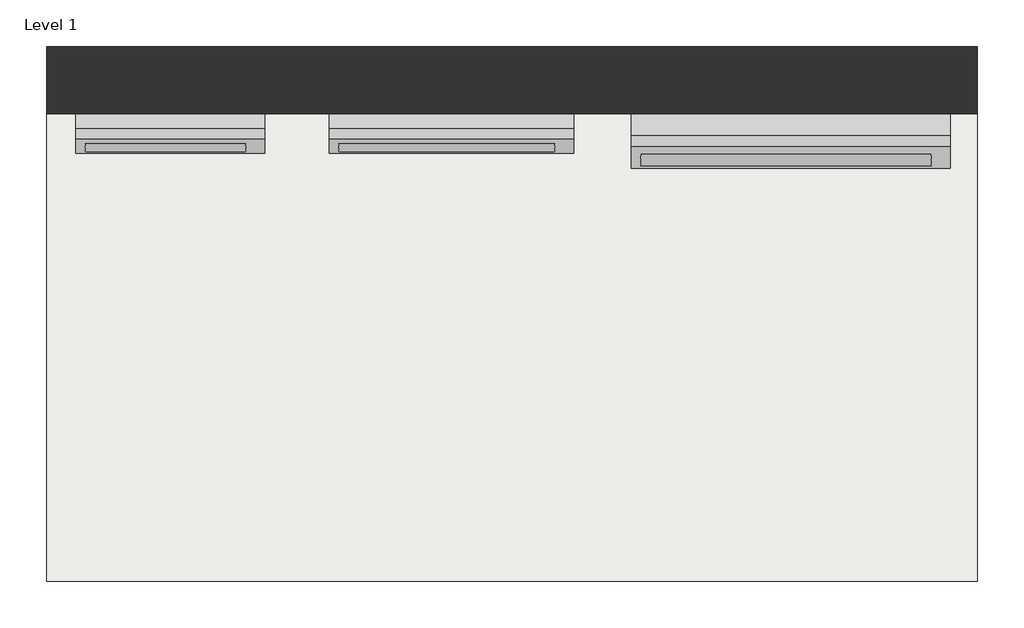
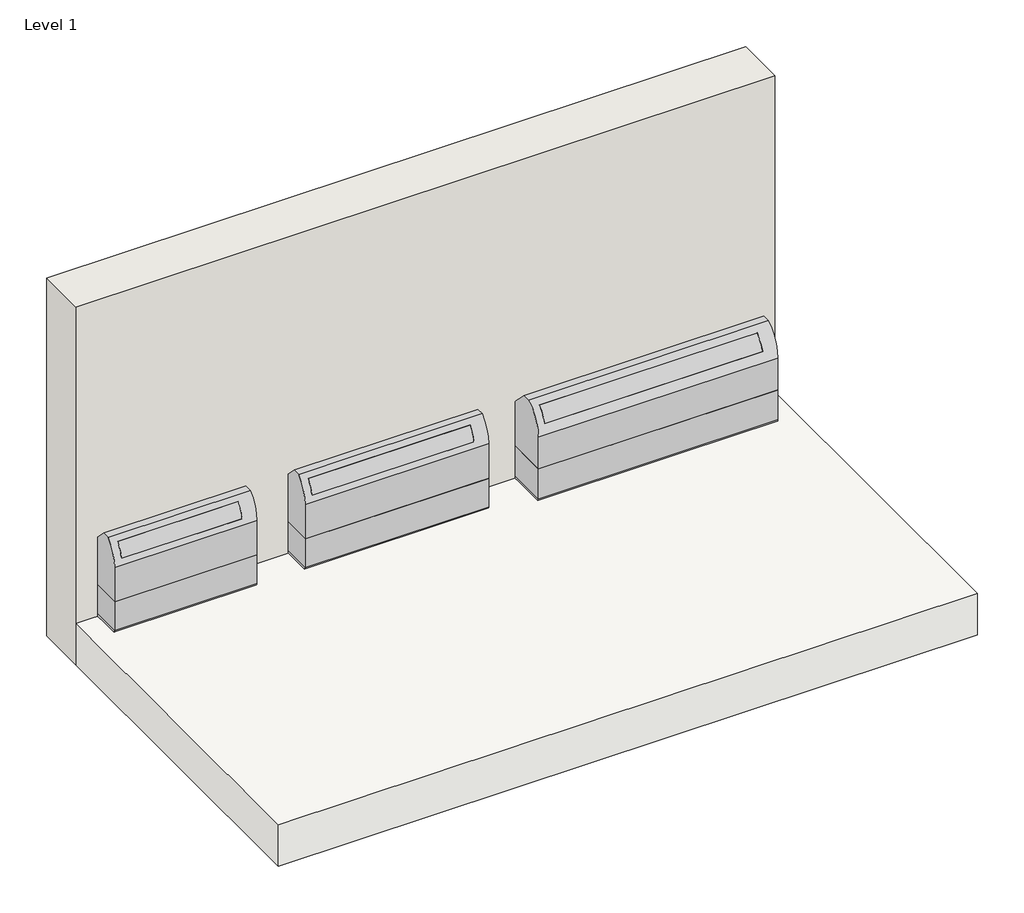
# One storey: 3 proxies, 1 slab, 1 wall.
"""IFC4 building model written with IfcOpenShell, lengths in millimetres."""

import ifcopenshell
import ifcopenshell.guid

model = None  # the IFC model being written
_history = None  # IfcOwnerHistory: only IFC2X3 demands one
_inside = {}  # id of a spatial element -> (the spatial element, [elements in it])
_under = {}  # id of a project, library or spatial element -> (it, [spatial elements below it])
_declared = {}  # id of a project -> (the project, [libraries it declares])
_typed = {}  # id of a type object -> (the type object, [elements of that type])
_made_of = {}  # id of a material, layer set ... -> (it, [elements and type objects made of it])


def new_model(schema):
    """Start an empty IFC model of exactly this schema.

    Asked for "IFC4X3", IfcOpenShell would pick the latest addendum, in which some entities
    have other attributes; the version numbers below select the first issue.
    IFC2X3 requires an IfcOwnerHistory on every rooted entity: one is made here for all.
    """
    global model, _history
    if schema == "IFC4X3":
        model = ifcopenshell.file(schema_version=(4, 3, 0, 0))
    else:
        model = ifcopenshell.file(schema=schema)
    _inside.clear()
    _under.clear()
    _declared.clear()
    _typed.clear()
    _made_of.clear()
    _history = None
    if model.schema == "IFC2X3":
        org = make("IfcOrganization", Name="unknown")
        user = make(
            "IfcPersonAndOrganization",
            ThePerson=make("IfcPerson", FamilyName="unknown"),
            TheOrganization=org,
        )
        app = make(
            "IfcApplication",
            ApplicationDeveloper=org,
            Version="unknown",
            ApplicationFullName="unknown",
            ApplicationIdentifier="unknown",
        )
        _history = make(
            "IfcOwnerHistory",
            OwningUser=user,
            OwningApplication=app,
            ChangeAction="ADDED",
            CreationDate=0,
        )
    return model


def make(cls, **values):
    """One entity of the class cls with the attributes given. An attribute that is None is left unset."""
    return model.create_entity(
        cls, **{name: value for name, value in values.items() if value is not None}
    )


def rooted(cls, **values):
    """An entity with a GlobalId (a new one), such as an element, a storey or a relation."""
    return make(cls, GlobalId=ifcopenshell.guid.new(), OwnerHistory=_history, **values)


def si_unit(unit_type, name, prefix=None):
    """IfcSIUnit, for example si_unit("LENGTHUNIT", "METRE", prefix="MILLI")."""
    return make("IfcSIUnit", UnitType=unit_type, Prefix=prefix, Name=name)


def assignment(units):
    """IfcUnitAssignment: the units of a project."""
    return None if units is None else make("IfcUnitAssignment", Units=units)


def point(xyz):
    """IfcCartesianPoint."""
    return None if xyz is None else make("IfcCartesianPoint", Coordinates=xyz)


def direction(xyz):
    """IfcDirection."""
    return None if xyz is None else make("IfcDirection", DirectionRatios=xyz)


def frame(location, z_axis=None, x_axis=None):
    """IfcAxis2Placement3D, a coordinate frame: its origin and axes. An axis left out is left unset."""
    return make(
        "IfcAxis2Placement3D",
        Location=point(location),
        Axis=direction(z_axis),
        RefDirection=direction(x_axis),
    )


def frame_2d(location, x_axis=None):
    """IfcAxis2Placement2D, a coordinate frame in the plane: its origin and x axis."""
    return make(
        "IfcAxis2Placement2D", Location=point(location), RefDirection=direction(x_axis)
    )


def origin():
    """The frame at (0, 0, 0) with its axes left unset."""
    return frame((0.0, 0.0, 0.0))


def place(relative_to, where):
    """IfcLocalPlacement: puts the frame where relative to a parent placement (None: the world)."""
    return make(
        "IfcLocalPlacement", PlacementRelTo=relative_to, RelativePlacement=where
    )


def context(
    kind, dimensions, precision=None, world=None, true_north=None, identifier=None
):
    """IfcGeometricRepresentationContext, for example the 3D "Model" context."""
    return make(
        "IfcGeometricRepresentationContext",
        ContextIdentifier=identifier,
        ContextType=kind,
        CoordinateSpaceDimension=dimensions,
        Precision=precision,
        WorldCoordinateSystem=world,
        TrueNorth=true_north,
    )


def project(units=None, contexts=None):
    """IfcProject with its units and contexts."""
    return rooted(
        "IfcProject",
        Name="project",
        RepresentationContexts=contexts,
        UnitsInContext=assignment(units),
    )


def spatial(cls, under=None, at=None, **own):
    """A site, building, storey or space (cls), placed at a placement, below another one or the project."""
    s = rooted(cls, ObjectPlacement=at, **own)
    if under is not None:
        _under.setdefault(under.id(), (under, []))[1].append(s)
    return s


def polyline(points):
    """IfcPolyline through the points."""
    return make("IfcPolyline", Points=[point(p) for p in points])


def circle_curve(where, radius):
    """IfcCircle in the frame where."""
    return make("IfcCircle", Position=where, Radius=radius)


def trimmed(basis, trim1, trim2, sense, master):
    """IfcTrimmedCurve: the piece of a basis curve between two trims."""
    return make(
        "IfcTrimmedCurve",
        BasisCurve=basis,
        Trim1=trim1,
        Trim2=trim2,
        SenseAgreement=sense,
        MasterRepresentation=master,
    )


def segment(curve, same_sense, transition):
    """IfcCompositeCurveSegment."""
    return make(
        "IfcCompositeCurveSegment",
        Transition=transition,
        SameSense=same_sense,
        ParentCurve=curve,
    )


def composite_curve(segments, self_intersect=None):
    """IfcCompositeCurve: segments joined end to end."""
    return make("IfcCompositeCurve", Segments=segments, SelfIntersect=self_intersect)


def outline(outer, holes=None, kind="AREA"):
    """IfcArbitraryClosedProfileDef: a profile drawn as a closed curve; with holes, ...WithVoids."""
    if holes is None:
        return make("IfcArbitraryClosedProfileDef", ProfileType=kind, OuterCurve=outer)
    return make(
        "IfcArbitraryProfileDefWithVoids",
        ProfileType=kind,
        OuterCurve=outer,
        InnerCurves=holes,
    )


def extrude(swept, where, along, depth):
    """IfcExtrudedAreaSolid: the profile swept, set in the frame where, extruded along a direction by depth."""
    return make(
        "IfcExtrudedAreaSolid",
        SweptArea=swept,
        Position=where,
        ExtrudedDirection=direction(along),
        Depth=depth,
    )


def faces_of(points, faces, orient=None, outer=None):
    """IfcFace entities. A face is a list of loops; a loop is a list of indices into points, from 0.

    orient and outer hold one flag for each loop. By default every Orientation is true, the
    first loop of a face is its IfcFaceOuterBound and the others are IfcFaceBound.
    """
    made = []
    for i, loops in enumerate(faces):
        bounds = []
        for j, loop in enumerate(loops):
            is_outer = j == 0 if outer is None else outer[i][j]
            bounds.append(
                make(
                    "IfcFaceOuterBound" if is_outer else "IfcFaceBound",
                    Bound=make("IfcPolyLoop", Polygon=[points[k] for k in loop]),
                    Orientation=True if orient is None else orient[i][j],
                )
            )
        made.append(make("IfcFace", Bounds=bounds))
    return made


def faceted_brep(points, faces, orient=None, outer=None, voids=None):
    """IfcFacetedBrep: a solid bounded by flat faces; with voids (closed shells), ...WithVoids."""
    shared = [point(p) for p in points]
    hull = make("IfcClosedShell", CfsFaces=faces_of(shared, faces, orient, outer))
    if voids is None:
        return make("IfcFacetedBrep", Outer=hull)
    return make(
        "IfcFacetedBrepWithVoids",
        Outer=hull,
        Voids=[
            make(cls, CfsFaces=faces_of(shared, fs, o, b)) for cls, fs, o, b in voids
        ],
    )


def shape(context_of_items, identifier, shape_type, items):
    """IfcShapeRepresentation: the items that make up one representation, for example the "Body"."""
    return make(
        "IfcShapeRepresentation",
        ContextOfItems=context_of_items,
        RepresentationIdentifier=identifier,
        RepresentationType=shape_type,
        Items=items,
    )


def source(mapping_origin, context_of_items, identifier, shape_type, items):
    """IfcRepresentationMap: a shape defined once, which mapped items show again and again."""
    return make(
        "IfcRepresentationMap",
        MappingOrigin=mapping_origin,
        MappedRepresentation=shape(context_of_items, identifier, shape_type, items),
    )


def transform(
    local_origin,
    x_axis=None,
    y_axis=None,
    z_axis=None,
    scale=None,
    scale2=None,
    scale3=None,
    uniform=True,
):
    """IfcCartesianTransformationOperator3D, or its non-uniform kind. x_axis, y_axis, z_axis: its Axis1, 2, 3."""
    if uniform:
        return make(
            "IfcCartesianTransformationOperator3D",
            Axis1=direction(x_axis),
            Axis2=direction(y_axis),
            LocalOrigin=point(local_origin),
            Scale=scale,
            Axis3=direction(z_axis),
        )
    return make(
        "IfcCartesianTransformationOperator3DnonUniform",
        Axis1=direction(x_axis),
        Axis2=direction(y_axis),
        LocalOrigin=point(local_origin),
        Scale=scale,
        Axis3=direction(z_axis),
        Scale2=scale2,
        Scale3=scale3,
    )


def mapped(mapping_source, mapping_target):
    """IfcMappedItem: shows the shape of a source again, moved by a transform."""
    return make(
        "IfcMappedItem", MappingSource=mapping_source, MappingTarget=mapping_target
    )


def made_of(thing, what):
    """Note that an element or type object is made of a material, layer set ...; save() writes the relation."""
    if what is not None:
        _made_of.setdefault(what.id(), (what, []))[1].append(thing)
    return thing


def element(
    cls,
    number,
    at=None,
    inside=None,
    cuts=None,
    type_object=None,
    material=None,
    context=None,
    identifier="Body",
    shape_type=None,
    held_by="IfcProductDefinitionShape",
    body=None,
    shapes=None,
    **own,
):
    """One element of the class cls, such as IfcWall. Its Tag is "e" and its number.

    at: its placement. inside: the storey or other place that contains it. cuts: it is an
    opening in that element (IfcRelVoidsElement). A single representation is given by context,
    identifier, shape_type and body (its items); several are given by shapes. held_by: the class
    of the entity that holds the representations. save() writes the other relations.
    """
    e = rooted(cls, Tag="e%d" % number, ObjectPlacement=at, **own)
    if body is not None:
        shapes = [shape(context, identifier, shape_type, body)]
    if shapes is not None:
        e.Representation = make(held_by, Representations=shapes)
    if inside is not None:
        _inside.setdefault(inside.id(), (inside, []))[1].append(e)
    if cuts is not None:
        rooted(
            "IfcRelVoidsElement", RelatingBuildingElement=cuts, RelatedOpeningElement=e
        )
    if type_object is not None:
        _typed.setdefault(type_object.id(), (type_object, []))[1].append(e)
    return made_of(e, material)


def aggregate(whole, parts):
    """IfcRelAggregates: a whole, such as a stair, and the parts it consists of."""
    return rooted("IfcRelAggregates", RelatingObject=whole, RelatedObjects=parts)


def save(model, path):
    """Write the relations noted so far, then the file.

    IfcRelAggregates (storeys below a building ...), IfcRelContainedInSpatialStructure (elements
    in a storey), IfcRelDefinesByType, IfcRelAssociatesMaterial and IfcRelDeclares: one each for
    every whole, place, type object, material and project.
    """
    for whole, parts in _under.values():
        aggregate(whole, parts)
    for where, things in _inside.values():
        rooted(
            "IfcRelContainedInSpatialStructure",
            RelatedElements=things,
            RelatingStructure=where,
        )
    for kind, things in _typed.values():
        rooted("IfcRelDefinesByType", RelatedObjects=things, RelatingType=kind)
    for what, things in _made_of.values():
        rooted("IfcRelAssociatesMaterial", RelatedObjects=things, RelatingMaterial=what)
    for by, libraries in _declared.values():
        rooted("IfcRelDeclares", RelatingContext=by, RelatedDefinitions=libraries)
    model.write(path)


def plane_surface(at):
    """IfcPlane: the flat surface through the origin of the frame at, square to its z axis."""
    return make("IfcPlane", Position=at)


def cylinder_surface(at, radius):
    """IfcCylindricalSurface: all points at the distance radius from the z axis of the frame at."""
    return make("IfcCylindricalSurface", Position=at, Radius=radius)


def advanced_brep(points, edges, surfaces, faces):
    """IfcAdvancedBrep: a solid bounded by faces that lie on surfaces and meet in shared edges.

    An edge is (start, end): straight between two places in points (the first is 0);
    or (start, end, curve); or (start, end, curve, False) where it runs against its curve.
    A face is (place in surfaces, loops), or (place, loops, False) where it looks against
    its surface's normal. A loop lists edges by number (the first is 1), with a minus sign
    where the edge is run from its end to its start. The first loop is the outer one.
    """
    corners = [point(p) for p in points]
    vertices = [make("IfcVertexPoint", VertexGeometry=c) for c in corners]
    made = []
    for start, end, *more in edges:
        made.append(
            make(
                "IfcEdgeCurve",
                EdgeStart=vertices[start],
                EdgeEnd=vertices[end],
                EdgeGeometry=more[0] if more else make("IfcPolyline", Points=[corners[start], corners[end]]),
                SameSense=more[1] if len(more) > 1 else True,
            )
        )
    hull = []
    for where, loops, *sense in faces:
        bounds = []
        for j, loop in enumerate(loops):
            ring = [make("IfcOrientedEdge", EdgeElement=made[abs(k) - 1], Orientation=k > 0) for k in loop]
            bounds.append(
                make(
                    "IfcFaceOuterBound" if j == 0 else "IfcFaceBound",
                    Bound=make("IfcEdgeLoop", EdgeList=ring),
                    Orientation=True,
                )
            )
        hull.append(make("IfcAdvancedFace", Bounds=bounds, FaceSurface=surfaces[where], SameSense=sense[0] if sense else True))
    return make("IfcAdvancedBrep", Outer=make("IfcClosedShell", CfsFaces=hull))


def proxy_15000_btu_h_a17ee8bb(model_context):
    return source(origin(), model_context, "Body", "SolidModel", [
        faceted_brep([(495.5, 230.0, 206.0), (495.5, 20.0, 206.0), (495.5, 20.0, 0.0), (495.5, 230.0, 0.0), (-495.5, 230.0, 206.0), (-495.5, 230.0, 0.0), (-495.5, 20.0, 0.0), (-495.5, 20.0, 206.0), (355.5, 20.0, 0.0), (355.5, 20.0, 125.0), (455.5, 20.0, 125.0), (455.5, 20.0, 0.0), (455.5, 110.0, 0.0), (355.5, 110.0, 0.0), (355.5, 184.8703415, 125.0), (455.5, 184.8703415, 125.0), (455.5, 110.0, 25.0), (355.5, 110.0, 25.0), (355.5, 184.8703415, 25.0), (455.5, 184.8703415, 25.0)], [[[0, 1, 2, 3]], [[4, 5, 6, 7]], [[1, 0, 4, 7]], [[2, 1, 7, 6, 8, 9, 10, 11]], [[3, 2, 11, 12, 13, 8, 6, 5]], [[0, 3, 5, 4]], [[10, 9, 14, 15]], [[13, 12, 16, 17]], [[14, 9, 8, 13, 17, 18]], [[10, 15, 19, 16, 12, 11]], [[15, 14, 18, 19]], [[19, 18, 17, 16]]]),
        extrude(outline(composite_curve([segment(trimmed(circle_curve(frame_2d((97.0, 440.5)), 6.35), [point((97.0, 434.15))], [point((97.0, 446.85))], False, "CARTESIAN"), True, "CONTINUOUS"), segment(trimmed(circle_curve(frame_2d((97.0, 440.5)), 6.35), [point((97.0, 446.85))], [point((97.0, 434.15))], False, "CARTESIAN"), True, "CONTINUOUS")], self_intersect=False)), frame((0.0, 134.0, 0.0), z_axis=(0.0, 1.0, 0.0), x_axis=(0.0, 0.0, 1.0)), (0.0, 0.0, 1.0), 90.0),
        extrude(outline(composite_curve([segment(trimmed(circle_curve(frame_2d((64.0, 434.5)), 3.175), [point((64.0, 437.675))], [point((64.0, 431.325))], False, "CARTESIAN"), True, "CONTINUOUS"), segment(trimmed(circle_curve(frame_2d((64.0, 434.5)), 3.175), [point((64.0, 431.325))], [point((64.0, 437.675))], False, "CARTESIAN"), True, "CONTINUOUS")], self_intersect=False)), frame((0.0, 98.0, 0.0), z_axis=(0.0, 1.0, 0.0), x_axis=(0.0, 0.0, 1.0)), (0.0, 0.0, 1.0), 125.0),
        advanced_brep(
        [(495.5, 0.0, 186.0), (495.5, 0.0, 0.0), (495.5, 585.0, 0.0), (495.5, 660.0, 76.0), (495.5, 660.0, 130.0), (495.5, 484.7744311, 206.0), (495.5, 20.0, 206.0), (-495.5, 0.0, 186.0), (-495.5, 20.0, 206.0), (-495.5, 484.7744311, 206.0), (-495.5, 660.0, 130.0), (-495.5, 660.0, 76.0), (-495.5, 585.0, 0.0), (-495.5, 0.0, 0.0), (355.5, 0.0, 125.0), (455.5, 0.0, 125.0), (455.5, 0.0, 25.0), (355.5, 0.0, 25.0), (455.5, 110.0, 0.0), (355.5, 110.0, 0.0), (355.5, 10.0, 0.0), (455.5, 10.0, 0.0), (-445.5, 630.0, 157.0746821), (395.5, 630.0, 157.0746821), (395.5, 530.0, 201.700335), (-445.5, 530.0, 201.700335), (395.5, 630.0, 103.0), (-445.5, 630.0, 103.0), (-445.5, 530.0, 103.0), (395.5, 530.0, 103.0), (455.5, 184.8703415, 125.0), (355.5, 184.8703415, 125.0), (355.5, 184.8703415, 25.0), (455.5, 184.8703415, 25.0), (355.5, 10.0, 25.0), (355.5, 110.0, 25.0), (455.5, 10.0, 25.0), (455.5, 110.0, 25.0)],
        [
            (0, 1),
            (1, 2),
            (2, 3),
            (3, 4),
            (4, 5, circle_curve(frame((495.5, 484.7744311, -34.0), z_axis=(1.0, 0.0, 0.0), x_axis=(0.0, 1.0, 0.0)), 240.0)),
            (5, 6),
            (6, 0, circle_curve(frame((495.5, 20.0, 186.0), z_axis=(1.0, 0.0, 0.0), x_axis=(0.0, 1.0, 0.0)), 20.0)),
            (7, 8, circle_curve(frame((-495.5, 20.0, 186.0), z_axis=(-1.0, 0.0, 0.0), x_axis=(0.0, 1.0, 0.0)), 20.0)),
            (8, 9),
            (9, 10, circle_curve(frame((-495.5, 484.7744311, -34.0), z_axis=(-1.0, 0.0, 0.0), x_axis=(0.0, 1.0, 0.0)), 240.0)),
            (10, 11),
            (11, 12),
            (12, 13),
            (13, 7),
            (0, 7),
            (13, 1),
            (14, 15),
            (15, 16),
            (16, 17),
            (17, 14),
            (12, 2),
            (18, 19),
            (19, 20),
            (20, 21),
            (21, 18),
            (11, 3),
            (10, 4),
            (9, 5),
            (22, 23),
            (23, 24, circle_curve(frame((395.5, 484.7744311, -34.0), z_axis=(1.0, 0.0, 0.0), x_axis=(0.0, 1.0, 0.0)), 240.0)),
            (24, 25),
            (25, 22, circle_curve(frame((-445.5, 484.7744311, -34.0), z_axis=(-1.0, 0.0, 0.0), x_axis=(0.0, 1.0, 0.0)), 240.0)),
            (8, 6),
            (26, 27),
            (27, 28),
            (28, 29),
            (29, 26),
            (26, 23),
            (22, 27),
            (25, 28),
            (24, 29),
            (30, 31),
            (31, 32),
            (32, 33),
            (33, 30),
            (14, 31),
            (30, 15),
            (17, 34),
            (34, 20),
            (19, 35),
            (35, 32),
            (16, 36),
            (36, 34),
            (35, 37),
            (37, 33),
            (37, 18),
            (21, 36),
        ],
        [
            plane_surface(frame((495.5, 0.0, 0.0), z_axis=(1.0, 0.0, 0.0), x_axis=(0.0, 0.0, -1.0))),
            plane_surface(frame((-495.5, 0.0, 0.0), z_axis=(-1.0, 0.0, 0.0), x_axis=(0.0, 0.0, 1.0))),
            plane_surface(frame((495.5, 0.0, 186.0), z_axis=(0.0, -1.0, 0.0), x_axis=(-1.0, 0.0, 0.0))),
            plane_surface(frame((495.5, 0.0, 0.0), z_axis=(0.0, 0.0, -1.0), x_axis=(-1.0, 0.0, 0.0))),
            plane_surface(frame((495.5, 585.0, 0.0), z_axis=(0.0, 0.7117739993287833, -0.7024085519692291), x_axis=(-1.0, 0.0, 0.0))),
            plane_surface(frame((495.5, 660.0, 76.0), z_axis=(0.0, 1.0, 0.0), x_axis=(-1.0, 0.0, 0.0))),
            cylinder_surface(frame((-495.5, 484.7744311, -34.0), z_axis=(1.0, 0.0, 0.0), x_axis=(0.0, 1.0, 0.0)), 240.0),
            plane_surface(frame((495.5, 484.7744311, 206.0), z_axis=(0.0, 0.0, 1.0), x_axis=(-1.0, 0.0, 0.0))),
            cylinder_surface(frame((-495.5, 20.0, 186.0), z_axis=(1.0, 0.0, 0.0), x_axis=(0.0, 1.0, 0.0)), 20.0),
            plane_surface(frame((-445.5, 630.0, 103.0), z_axis=(0.0, 0.0, 1.0), x_axis=(1.0, 0.0, 0.0))),
            plane_surface(frame((395.5, 630.0, 206.0), z_axis=(0.0, -1.0, 0.0), x_axis=(0.0, 0.0, -1.0))),
            plane_surface(frame((-445.5, 630.0, 206.0), z_axis=(1.0, 0.0, 0.0), x_axis=(0.0, 0.0, -1.0))),
            plane_surface(frame((-445.5, 530.0, 206.0), z_axis=(0.0, 1.0, 0.0), x_axis=(0.0, 0.0, -1.0))),
            plane_surface(frame((395.5, 530.0, 206.0), z_axis=(-1.0, 0.0, 0.0), x_axis=(0.0, 0.0, -1.0))),
            plane_surface(frame((355.5, 184.8703415, 125.0), z_axis=(0.0, -1.0, 0.0), x_axis=(1.0, 0.0, 0.0))),
            plane_surface(frame((455.5, 0.0, 125.0), z_axis=(0.0, 0.0, -1.0), x_axis=(0.0, 1.0, 0.0))),
            plane_surface(frame((355.5, 0.0, 125.0), z_axis=(1.0, 0.0, 0.0), x_axis=(0.0, 1.0, 0.0))),
            plane_surface(frame((355.5, 0.0, 25.0), z_axis=(0.0, 0.0, 1.0), x_axis=(0.0, 1.0, 0.0))),
            plane_surface(frame((455.5, 0.0, 25.0), z_axis=(-1.0, 0.0, 0.0), x_axis=(0.0, 1.0, 0.0))),
            plane_surface(frame((455.5, 110.0, 125.0), z_axis=(0.0, -1.0, 0.0), x_axis=(0.0, 0.0, -1.0))),
            plane_surface(frame((355.5, 10.0, 125.0), z_axis=(0.0, 1.0, 0.0), x_axis=(0.0, 0.0, -1.0))),
        ],
        [
            (0, [[1, 2, 3, 4, 5, 6, 7]]),
            (1, [[8, 9, 10, 11, 12, 13, 14]]),
            (2, [[-1, 15, -14, 16], [17, 18, 19, 20]]),
            (3, [[-2, -16, -13, 21], [22, 23, 24, 25]]),
            (4, [[-3, -21, -12, 26]]),
            (5, [[-4, -26, -11, 27]]),
            (6, [[-5, -27, -10, 28], [29, 30, 31, 32]]),
            (7, [[-6, -28, -9, 33]]),
            (8, [[-7, -33, -8, -15]]),
            (9, [[34, 35, 36, 37]]),
            (10, [[-34, 38, -29, 39]]),
            (11, [[-35, -39, -32, 40]]),
            (12, [[-36, -40, -31, 41]]),
            (13, [[-37, -41, -30, -38]]),
            (14, [[42, 43, 44, 45]]),
            (15, [[46, -42, 47, -17]]),
            (16, [[-43, -46, -20, 48, 49, -23, 50, 51]]),
            (17, [[-19, 52, 53, -48]]),
            (17, [[-44, -51, 54, 55]]),
            (18, [[-45, -55, 56, -25, 57, -52, -18, -47]]),
            (19, [[-50, -22, -56, -54]]),
            (20, [[-49, -53, -57, -24]]),
        ],
    ),
        extrude(outline(composite_curve([segment(trimmed(circle_curve(frame_2d((484.7744311, -34.0)), 240.0), [point((530.0, 201.700335))], [point((630.0, 157.0746821))], False, "CARTESIAN"), True, "CONTINUOUS"), segment(polyline([(630.0, 157.0746821), (630.0, 103.0), (530.0, 103.0), (530.0, 201.700335)]), True, "CONTINUOUS")], self_intersect=False)), frame((-445.5, 0.0, 0.0), z_axis=(1.0, 0.0, 0.0), x_axis=(0.0, 1.0, 0.0)), (0.0, 0.0, 1.0), 841.0),
    ])


def proxy_30000_btu_h_688ba176(model_context):
    return source(origin(), model_context, "Body", "SolidModel", [
        faceted_brep([(640.0, 230.0, 206.0), (640.0, 20.0, 206.0), (640.0, 20.0, 0.0), (640.0, 230.0, 0.0), (-640.0, 230.0, 206.0), (-640.0, 230.0, 0.0), (-640.0, 20.0, 0.0), (-640.0, 20.0, 206.0), (497.0, 20.0, 0.0), (497.0, 20.0, 125.0), (597.0, 20.0, 125.0), (597.0, 20.0, 0.0), (597.0, 110.0, 0.0), (497.0, 110.0, 0.0), (497.0, 184.8703415, 125.0), (597.0, 184.8703415, 125.0), (597.0, 110.0, 25.0), (497.0, 110.0, 25.0), (497.0, 184.8703415, 25.0), (597.0, 184.8703415, 25.0)], [[[0, 1, 2, 3]], [[4, 5, 6, 7]], [[1, 0, 4, 7]], [[2, 1, 7, 6, 8, 9, 10, 11]], [[3, 2, 11, 12, 13, 8, 6, 5]], [[0, 3, 5, 4]], [[10, 9, 14, 15]], [[13, 12, 16, 17]], [[14, 9, 8, 13, 17, 18]], [[10, 15, 19, 16, 12, 11]], [[15, 14, 18, 19]], [[19, 18, 17, 16]]]),
        extrude(outline(composite_curve([segment(trimmed(circle_curve(frame_2d((97.0, 582.0)), 7.9375), [point((97.0, 574.0625))], [point((97.0, 589.9375))], False, "CARTESIAN"), True, "CONTINUOUS"), segment(trimmed(circle_curve(frame_2d((97.0, 582.0)), 7.9375), [point((97.0, 589.9375))], [point((97.0, 574.0625))], False, "CARTESIAN"), True, "CONTINUOUS")], self_intersect=False)), frame((0.0, 134.0, 0.0), z_axis=(0.0, 1.0, 0.0), x_axis=(0.0, 0.0, 1.0)), (0.0, 0.0, 1.0), 90.0),
        extrude(outline(composite_curve([segment(trimmed(circle_curve(frame_2d((64.0, 579.0)), 4.7625), [point((64.0, 583.7625))], [point((64.0, 574.2375))], False, "CARTESIAN"), True, "CONTINUOUS"), segment(trimmed(circle_curve(frame_2d((64.0, 579.0)), 4.7625), [point((64.0, 574.2375))], [point((64.0, 583.7625))], False, "CARTESIAN"), True, "CONTINUOUS")], self_intersect=False)), frame((0.0, 98.0, 0.0), z_axis=(0.0, 1.0, 0.0), x_axis=(0.0, 0.0, 1.0)), (0.0, 0.0, 1.0), 125.0),
        advanced_brep(
        [(640.0, 0.0, 186.0), (640.0, 0.0, 0.0), (640.0, 585.0, 0.0), (640.0, 660.0, 76.0), (640.0, 660.0, 130.0), (640.0, 484.7744311, 206.0), (640.0, 20.0, 206.0), (-640.0, 0.0, 186.0), (-640.0, 20.0, 206.0), (-640.0, 484.7744311, 206.0), (-640.0, 660.0, 130.0), (-640.0, 660.0, 76.0), (-640.0, 585.0, 0.0), (-640.0, 0.0, 0.0), (497.0, 0.0, 125.0), (597.0, 0.0, 125.0), (597.0, 0.0, 25.0), (497.0, 0.0, 25.0), (597.0, 110.0, 0.0), (497.0, 110.0, 0.0), (497.0, 10.0, 0.0), (597.0, 10.0, 0.0), (-590.0, 630.0, 157.0746821), (540.0, 630.0, 157.0746821), (540.0, 530.0, 201.700335), (-590.0, 530.0, 201.700335), (540.0, 630.0, 103.0), (-590.0, 630.0, 103.0), (-590.0, 530.0, 103.0), (540.0, 530.0, 103.0), (597.0, 184.8703415, 125.0), (497.0, 184.8703415, 125.0), (497.0, 184.8703415, 25.0), (597.0, 184.8703415, 25.0), (497.0, 10.0, 25.0), (497.0, 110.0, 25.0), (597.0, 10.0, 25.0), (597.0, 110.0, 25.0)],
        [
            (0, 1),
            (1, 2),
            (2, 3),
            (3, 4),
            (4, 5, circle_curve(frame((640.0, 484.7744311, -34.0), z_axis=(1.0, 0.0, 0.0), x_axis=(0.0, 1.0, 0.0)), 240.0)),
            (5, 6),
            (6, 0, circle_curve(frame((640.0, 20.0, 186.0), z_axis=(1.0, 0.0, 0.0), x_axis=(0.0, 1.0, 0.0)), 20.0)),
            (7, 8, circle_curve(frame((-640.0, 20.0, 186.0), z_axis=(-1.0, 0.0, 0.0), x_axis=(0.0, 1.0, 0.0)), 20.0)),
            (8, 9),
            (9, 10, circle_curve(frame((-640.0, 484.7744311, -34.0), z_axis=(-1.0, 0.0, 0.0), x_axis=(0.0, 1.0, 0.0)), 240.0)),
            (10, 11),
            (11, 12),
            (12, 13),
            (13, 7),
            (0, 7),
            (13, 1),
            (14, 15),
            (15, 16),
            (16, 17),
            (17, 14),
            (12, 2),
            (18, 19),
            (19, 20),
            (20, 21),
            (21, 18),
            (11, 3),
            (10, 4),
            (9, 5),
            (22, 23),
            (23, 24, circle_curve(frame((540.0, 484.7744311, -34.0), z_axis=(1.0, 0.0, 0.0), x_axis=(0.0, 1.0, 0.0)), 240.0)),
            (24, 25),
            (25, 22, circle_curve(frame((-590.0, 484.7744311, -34.0), z_axis=(-1.0, 0.0, 0.0), x_axis=(0.0, 1.0, 0.0)), 240.0)),
            (8, 6),
            (26, 27),
            (27, 28),
            (28, 29),
            (29, 26),
            (26, 23),
            (22, 27),
            (25, 28),
            (24, 29),
            (30, 31),
            (31, 32),
            (32, 33),
            (33, 30),
            (14, 31),
            (30, 15),
            (17, 34),
            (34, 20),
            (19, 35),
            (35, 32),
            (16, 36),
            (36, 34),
            (35, 37),
            (37, 33),
            (37, 18),
            (21, 36),
        ],
        [
            plane_surface(frame((640.0, 0.0, 0.0), z_axis=(1.0, 0.0, 0.0), x_axis=(0.0, 0.0, -1.0))),
            plane_surface(frame((-640.0, 0.0, 0.0), z_axis=(-1.0, 0.0, 0.0), x_axis=(0.0, 0.0, 1.0))),
            plane_surface(frame((640.0, 0.0, 186.0), z_axis=(0.0, -1.0, 0.0), x_axis=(-1.0, 0.0, 0.0))),
            plane_surface(frame((640.0, 0.0, 0.0), z_axis=(0.0, 0.0, -1.0), x_axis=(-1.0, 0.0, 0.0))),
            plane_surface(frame((640.0, 585.0, 0.0), z_axis=(0.0, 0.7117739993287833, -0.7024085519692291), x_axis=(-1.0, 0.0, 0.0))),
            plane_surface(frame((640.0, 660.0, 76.0), z_axis=(0.0, 1.0, 0.0), x_axis=(-1.0, 0.0, 0.0))),
            cylinder_surface(frame((-640.0, 484.7744311, -34.0), z_axis=(1.0, 0.0, 0.0), x_axis=(0.0, 1.0, 0.0)), 240.0),
            plane_surface(frame((640.0, 484.7744311, 206.0), z_axis=(0.0, 0.0, 1.0), x_axis=(-1.0, 0.0, 0.0))),
            cylinder_surface(frame((-640.0, 20.0, 186.0), z_axis=(1.0, 0.0, 0.0), x_axis=(0.0, 1.0, 0.0)), 20.0),
            plane_surface(frame((-590.0, 630.0, 103.0), z_axis=(0.0, 0.0, 1.0), x_axis=(1.0, 0.0, 0.0))),
            plane_surface(frame((540.0, 630.0, 206.0), z_axis=(0.0, -1.0, 0.0), x_axis=(0.0, 0.0, -1.0))),
            plane_surface(frame((-590.0, 630.0, 206.0), z_axis=(1.0, 0.0, 0.0), x_axis=(0.0, 0.0, -1.0))),
            plane_surface(frame((-590.0, 530.0, 206.0), z_axis=(0.0, 1.0, 0.0), x_axis=(0.0, 0.0, -1.0))),
            plane_surface(frame((540.0, 530.0, 206.0), z_axis=(-1.0, 0.0, 0.0), x_axis=(0.0, 0.0, -1.0))),
            plane_surface(frame((497.0, 184.8703415, 125.0), z_axis=(0.0, -1.0, 0.0), x_axis=(1.0, 0.0, 0.0))),
            plane_surface(frame((597.0, 0.0, 125.0), z_axis=(0.0, 0.0, -1.0), x_axis=(0.0, 1.0, 0.0))),
            plane_surface(frame((497.0, 0.0, 125.0), z_axis=(1.0, 0.0, 0.0), x_axis=(0.0, 1.0, 0.0))),
            plane_surface(frame((497.0, 0.0, 25.0), z_axis=(0.0, 0.0, 1.0), x_axis=(0.0, 1.0, 0.0))),
            plane_surface(frame((597.0, 0.0, 25.0), z_axis=(-1.0, 0.0, 0.0), x_axis=(0.0, 1.0, 0.0))),
            plane_surface(frame((597.0, 110.0, 125.0), z_axis=(0.0, -1.0, 0.0), x_axis=(0.0, 0.0, -1.0))),
            plane_surface(frame((497.0, 10.0, 125.0), z_axis=(0.0, 1.0, 0.0), x_axis=(0.0, 0.0, -1.0))),
        ],
        [
            (0, [[1, 2, 3, 4, 5, 6, 7]]),
            (1, [[8, 9, 10, 11, 12, 13, 14]]),
            (2, [[-1, 15, -14, 16], [17, 18, 19, 20]]),
            (3, [[-2, -16, -13, 21], [22, 23, 24, 25]]),
            (4, [[-3, -21, -12, 26]]),
            (5, [[-4, -26, -11, 27]]),
            (6, [[-5, -27, -10, 28], [29, 30, 31, 32]]),
            (7, [[-6, -28, -9, 33]]),
            (8, [[-7, -33, -8, -15]]),
            (9, [[34, 35, 36, 37]]),
            (10, [[-34, 38, -29, 39]]),
            (11, [[-35, -39, -32, 40]]),
            (12, [[-36, -40, -31, 41]]),
            (13, [[-37, -41, -30, -38]]),
            (14, [[42, 43, 44, 45]]),
            (15, [[46, -42, 47, -17]]),
            (16, [[-43, -46, -20, 48, 49, -23, 50, 51]]),
            (17, [[-19, 52, 53, -48]]),
            (17, [[-44, -51, 54, 55]]),
            (18, [[-45, -55, 56, -25, 57, -52, -18, -47]]),
            (19, [[-50, -22, -56, -54]]),
            (20, [[-49, -53, -57, -24]]),
        ],
    ),
        extrude(outline(composite_curve([segment(trimmed(circle_curve(frame_2d((484.7744311, -34.0)), 240.0), [point((530.0, 201.700335))], [point((630.0, 157.0746821))], False, "CARTESIAN"), True, "CONTINUOUS"), segment(polyline([(630.0, 157.0746821), (630.0, 103.0), (530.0, 103.0), (530.0, 201.700335)]), True, "CONTINUOUS")], self_intersect=False)), frame((-590.0, 0.0, 0.0), z_axis=(1.0, 0.0, 0.0), x_axis=(0.0, 1.0, 0.0)), (0.0, 0.0, 1.0), 1130.0),
    ])


def proxy_54000_btu_h_3b2803dc(model_context):
    return source(origin(), model_context, "Body", "SolidModel", [
        faceted_brep([(835.0, 240.0, 285.0), (835.0, 20.0, 285.0), (835.0, 20.0, 0.0), (835.0, 240.0, 0.0), (-835.0, 240.0, 285.0), (-835.0, 240.0, 0.0), (-835.0, 20.0, 0.0), (-835.0, 20.0, 285.0), (663.0, 20.0, 0.0), (663.0, 20.0, 200.0), (763.0, 20.0, 200.0), (763.0, 20.0, 0.0), (763.0, 110.0, 0.0), (663.0, 110.0, 0.0), (663.0, 184.8703415, 200.0), (763.0, 184.8703415, 200.0), (763.0, 110.0, 100.0), (663.0, 110.0, 100.0), (663.0, 184.8703415, 100.0), (763.0, 184.8703415, 100.0)], [[[0, 1, 2, 3]], [[4, 5, 6, 7]], [[1, 0, 4, 7]], [[2, 1, 7, 6, 8, 9, 10, 11]], [[3, 2, 11, 12, 13, 8, 6, 5]], [[0, 3, 5, 4]], [[10, 9, 14, 15]], [[13, 12, 16, 17]], [[14, 9, 8, 13, 17, 18]], [[10, 15, 19, 16, 12, 11]], [[15, 14, 18, 19]], [[19, 18, 17, 16]]]),
        extrude(outline(composite_curve([segment(trimmed(circle_curve(frame_2d((157.0, 748.0)), 7.9375), [point((157.0, 740.0625))], [point((157.0, 755.9375))], False, "CARTESIAN"), True, "CONTINUOUS"), segment(trimmed(circle_curve(frame_2d((157.0, 748.0)), 7.9375), [point((157.0, 755.9375))], [point((157.0, 740.0625))], False, "CARTESIAN"), True, "CONTINUOUS")], self_intersect=False)), frame((0.0, 134.0, 0.0), z_axis=(0.0, 1.0, 0.0), x_axis=(0.0, 0.0, 1.0)), (0.0, 0.0, 1.0), 90.0),
        extrude(outline(composite_curve([segment(trimmed(circle_curve(frame_2d((124.0, 748.0)), 4.7625), [point((124.0, 752.7625))], [point((124.0, 743.2375))], False, "CARTESIAN"), True, "CONTINUOUS"), segment(trimmed(circle_curve(frame_2d((124.0, 748.0)), 4.7625), [point((124.0, 743.2375))], [point((124.0, 752.7625))], False, "CARTESIAN"), True, "CONTINUOUS")], self_intersect=False)), frame((0.0, 98.0, 0.0), z_axis=(0.0, 1.0, 0.0), x_axis=(0.0, 0.0, 1.0)), (0.0, 0.0, 1.0), 125.0),
        advanced_brep(
        [(835.0, 0.0, 265.0), (835.0, 0.0, 0.0), (835.0, 566.0197368, 0.0), (835.0, 680.0, 115.5), (835.0, 680.0, 169.5), (835.0, 474.8177639, 285.0), (835.0, 20.0, 285.0), (-835.0, 0.0, 265.0), (-835.0, 20.0, 285.0), (-835.0, 474.8177639, 285.0), (-835.0, 680.0, 169.5), (-835.0, 680.0, 115.5), (-835.0, 566.0197368, 0.0), (-835.0, 0.0, 0.0), (663.0, 0.0, 200.0), (763.0, 0.0, 200.0), (763.0, 0.0, 100.0), (663.0, 0.0, 100.0), (763.0, 110.0, 0.0), (663.0, 110.0, 0.0), (663.0, 10.0, 0.0), (763.0, 10.0, 0.0), (-785.0, 650.0, 209.0462867), (735.0, 650.0, 209.0462867), (735.0, 550.0, 272.9202303), (-785.0, 550.0, 272.9202303), (735.0, 650.0, 142.5), (-785.0, 650.0, 142.5), (-785.0, 550.0, 142.5), (735.0, 550.0, 142.5), (763.0, 184.8703415, 200.0), (663.0, 184.8703415, 200.0), (663.0, 184.8703415, 100.0), (763.0, 184.8703415, 100.0), (663.0, 10.0, 100.0), (663.0, 110.0, 100.0), (763.0, 10.0, 100.0), (763.0, 110.0, 100.0)],
        [
            (0, 1),
            (1, 2),
            (2, 3),
            (3, 4),
            (4, 5, circle_curve(frame((835.0, 474.8177639, 45.0), z_axis=(1.0, 0.0, 0.0), x_axis=(0.0, 1.0, 0.0)), 240.0)),
            (5, 6),
            (6, 0, circle_curve(frame((835.0, 20.0, 265.0), z_axis=(1.0, 0.0, 0.0), x_axis=(0.0, 1.0, 0.0)), 20.0)),
            (7, 8, circle_curve(frame((-835.0, 20.0, 265.0), z_axis=(-1.0, 0.0, 0.0), x_axis=(0.0, 1.0, 0.0)), 20.0)),
            (8, 9),
            (9, 10, circle_curve(frame((-835.0, 474.8177639, 45.0), z_axis=(-1.0, 0.0, 0.0), x_axis=(0.0, 1.0, 0.0)), 240.0)),
            (10, 11),
            (11, 12),
            (12, 13),
            (13, 7),
            (0, 7),
            (13, 1),
            (14, 15),
            (15, 16),
            (16, 17),
            (17, 14),
            (12, 2),
            (18, 19),
            (19, 20),
            (20, 21),
            (21, 18),
            (11, 3),
            (10, 4),
            (9, 5),
            (22, 23),
            (23, 24, circle_curve(frame((735.0, 474.8177639, 45.0), z_axis=(1.0, 0.0, 0.0), x_axis=(0.0, 1.0, 0.0)), 240.0)),
            (24, 25),
            (25, 22, circle_curve(frame((-785.0, 474.8177639, 45.0), z_axis=(-1.0, 0.0, 0.0), x_axis=(0.0, 1.0, 0.0)), 240.0)),
            (8, 6),
            (26, 27),
            (27, 28),
            (28, 29),
            (29, 26),
            (26, 23),
            (22, 27),
            (25, 28),
            (24, 29),
            (30, 31),
            (31, 32),
            (32, 33),
            (33, 30),
            (14, 31),
            (30, 15),
            (17, 34),
            (34, 20),
            (19, 35),
            (35, 32),
            (16, 36),
            (36, 34),
            (35, 37),
            (37, 33),
            (37, 18),
            (21, 36),
        ],
        [
            plane_surface(frame((835.0, 0.0, 0.0), z_axis=(1.0, 0.0, 0.0), x_axis=(0.0, 0.0, -1.0))),
            plane_surface(frame((-835.0, 0.0, 0.0), z_axis=(-1.0, 0.0, 0.0), x_axis=(0.0, 0.0, 1.0))),
            plane_surface(frame((835.0, 0.0, 265.0), z_axis=(0.0, -1.0, 0.0), x_axis=(-1.0, 0.0, 0.0))),
            plane_surface(frame((835.0, 0.0, 0.0), z_axis=(0.0, 0.0, -1.0), x_axis=(-1.0, 0.0, 0.0))),
            plane_surface(frame((835.0, 566.0197368, 0.0), z_axis=(0.0, 0.7117739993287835, -0.702408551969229), x_axis=(-1.0, 0.0, 0.0))),
            plane_surface(frame((835.0, 680.0, 115.5), z_axis=(0.0, 1.0, 0.0), x_axis=(-1.0, 0.0, 0.0))),
            cylinder_surface(frame((-835.0, 474.8177639, 45.0), z_axis=(1.0, 0.0, 0.0), x_axis=(0.0, 1.0, 0.0)), 240.0),
            plane_surface(frame((835.0, 474.8177639, 285.0), z_axis=(0.0, 0.0, 1.0), x_axis=(-1.0, 0.0, 0.0))),
            cylinder_surface(frame((-835.0, 20.0, 265.0), z_axis=(1.0, 0.0, 0.0), x_axis=(0.0, 1.0, 0.0)), 20.0),
            plane_surface(frame((-785.0, 650.0, 142.5), z_axis=(0.0, 0.0, 1.0), x_axis=(1.0, 0.0, 0.0))),
            plane_surface(frame((735.0, 650.0, 285.0), z_axis=(0.0, -1.0, 0.0), x_axis=(0.0, 0.0, -1.0))),
            plane_surface(frame((-785.0, 650.0, 285.0), z_axis=(1.0, 0.0, 0.0), x_axis=(0.0, 0.0, -1.0))),
            plane_surface(frame((-785.0, 550.0, 285.0), z_axis=(0.0, 1.0, 0.0), x_axis=(0.0, 0.0, -1.0))),
            plane_surface(frame((735.0, 550.0, 285.0), z_axis=(-1.0, 0.0, 0.0), x_axis=(0.0, 0.0, -1.0))),
            plane_surface(frame((663.0, 184.8703415, 200.0), z_axis=(0.0, -1.0, 0.0), x_axis=(1.0, 0.0, 0.0))),
            plane_surface(frame((763.0, 0.0, 200.0), z_axis=(0.0, 0.0, -1.0), x_axis=(0.0, 1.0, 0.0))),
            plane_surface(frame((663.0, 0.0, 200.0), z_axis=(1.0, 0.0, 0.0), x_axis=(0.0, 1.0, 0.0))),
            plane_surface(frame((663.0, 0.0, 100.0), z_axis=(0.0, 0.0, 1.0), x_axis=(0.0, 1.0, 0.0))),
            plane_surface(frame((763.0, 0.0, 100.0), z_axis=(-1.0, 0.0, 0.0), x_axis=(0.0, 1.0, 0.0))),
            plane_surface(frame((763.0, 110.0, 200.0), z_axis=(0.0, -1.0, 0.0), x_axis=(0.0, 0.0, -1.0))),
            plane_surface(frame((663.0, 10.0, 200.0), z_axis=(0.0, 1.0, 0.0), x_axis=(0.0, 0.0, -1.0))),
        ],
        [
            (0, [[1, 2, 3, 4, 5, 6, 7]]),
            (1, [[8, 9, 10, 11, 12, 13, 14]]),
            (2, [[-1, 15, -14, 16], [17, 18, 19, 20]]),
            (3, [[-2, -16, -13, 21], [22, 23, 24, 25]]),
            (4, [[-3, -21, -12, 26]]),
            (5, [[-4, -26, -11, 27]]),
            (6, [[-5, -27, -10, 28], [29, 30, 31, 32]]),
            (7, [[-6, -28, -9, 33]]),
            (8, [[-7, -33, -8, -15]]),
            (9, [[34, 35, 36, 37]]),
            (10, [[-34, 38, -29, 39]]),
            (11, [[-35, -39, -32, 40]]),
            (12, [[-36, -40, -31, 41]]),
            (13, [[-37, -41, -30, -38]]),
            (14, [[42, 43, 44, 45]]),
            (15, [[46, -42, 47, -17]]),
            (16, [[-43, -46, -20, 48, 49, -23, 50, 51]]),
            (17, [[-19, 52, 53, -48]]),
            (17, [[-44, -51, 54, 55]]),
            (18, [[-45, -55, 56, -25, 57, -52, -18, -47]]),
            (19, [[-50, -22, -56, -54]]),
            (20, [[-49, -53, -57, -24]]),
        ],
    ),
        extrude(outline(composite_curve([segment(trimmed(circle_curve(frame_2d((474.8177639, 45.0)), 240.0), [point((550.0, 272.9202303))], [point((650.0, 209.0462867))], False, "CARTESIAN"), True, "CONTINUOUS"), segment(polyline([(650.0, 209.0462867), (650.0, 142.5), (550.0, 142.5), (550.0, 272.9202303)]), True, "CONTINUOUS")], self_intersect=False)), frame((-785.0, 0.0, 0.0), z_axis=(1.0, 0.0, 0.0), x_axis=(0.0, 1.0, 0.0)), (0.0, 0.0, 1.0), 1520.0),
    ])


model = new_model("IFC4")

# Units and contexts
model_context = context("Model", 3, world=origin())
ifc_project = project(units=[si_unit("LENGTHUNIT", "METRE", prefix="MILLI")], contexts=[model_context])

# Site, building, storey
site = spatial("IfcSite", under=ifc_project)
building = spatial("IfcBuilding", under=site)
storey = spatial("IfcBuildingStorey", under=building, Name="Level 1", Elevation=0.0)

# Proxies
placement = place(None, origin())
proxy_15000_btu_h_shape = proxy_15000_btu_h_a17ee8bb(model_context)
element("IfcBuildingElementProxy", 1, Name="Lennox-VRF-Ceiling_Floor_Mount-VCFA-2P_Series : 15000 Btu/h", ObjectType="Lennox-VRF-Ceiling_Floor_Mount-VCFA-2P_Series : 15000 Btu/h", at=placement, inside=storey, context=model_context, shape_type="MappedRepresentation", body=[
    mapped(proxy_15000_btu_h_shape, transform((1871.4973575, 2013.9766815, 0.0), x_axis=(1.0, 0.0, 0.0), y_axis=(0.0, 0.0, 1.0), z_axis=(0.0, -1.0, 0.0))),
])
proxy_30000_btu_h_shape = proxy_30000_btu_h_688ba176(model_context)
element("IfcBuildingElementProxy", 2, Name="Lennox-VRF-Ceiling_Floor_Mount-VCFA-2P_Series : 30000 Btu/h", ObjectType="Lennox-VRF-Ceiling_Floor_Mount-VCFA-2P_Series : 30000 Btu/h", at=placement, inside=storey, context=model_context, shape_type="MappedRepresentation", body=[
    mapped(proxy_30000_btu_h_shape, transform((3344.6973575, 2013.9766815, 0.0), x_axis=(1.0, 0.0, 0.0), y_axis=(0.0, 0.0, 1.0), z_axis=(0.0, -1.0, 0.0))),
])
proxy_54000_btu_h_shape = proxy_54000_btu_h_3b2803dc(model_context)
element("IfcBuildingElementProxy", 3, Name="Lennox-VRF-Ceiling_Floor_Mount-VCFA-2P_Series : 54000 Btu/h", ObjectType="Lennox-VRF-Ceiling_Floor_Mount-VCFA-2P_Series : 54000 Btu/h", at=placement, inside=storey, context=model_context, shape_type="MappedRepresentation", body=[
    mapped(proxy_54000_btu_h_shape, transform((5122.2973575, 2013.9766815, 0.0), x_axis=(1.0, 0.0, 0.0), y_axis=(0.0, 0.0, 1.0), z_axis=(0.0, -1.0, 0.0))),
])

# Slab
element("IfcSlab", 4, ObjectType="Generic - 12\"", at=placement, inside=storey, context=model_context, shape_type="SweptSolid", body=[
    extrude(outline(polyline([(6100.3973575, 2013.9766815), (6100.3973575, -435.1794355), (1223.5973575, -435.1794355), (1223.5973575, 2013.9766815), (6100.3973575, 2013.9766815)])), frame((0.0, 0.0, -304.8), z_axis=(0.0, 0.0, 1.0), x_axis=(1.0, 0.0, 0.0)), (0.0, 0.0, 1.0), 304.8),
])

# Wall
element("IfcWall", 5, ObjectType="Exterior - Brick on Mtl. Stud", at=placement, inside=storey, context=model_context, shape_type="SweptSolid", body=[
    extrude(outline(polyline([(6100.3973575, 2013.9766815), (1223.5973575, 2013.9766815), (1223.5973575, 2366.4016815), (6100.3973575, 2366.4016815), (6100.3973575, 2013.9766815)])), frame((0.0, 0.0, -304.8), z_axis=(0.0, 0.0, 1.0), x_axis=(1.0, 0.0, 0.0)), (0.0, 0.0, 1.0), 2641.6),
])

save(model, "model.ifc")
